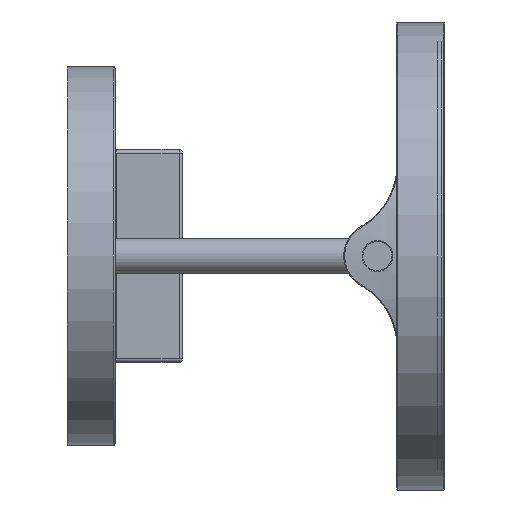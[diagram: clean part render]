
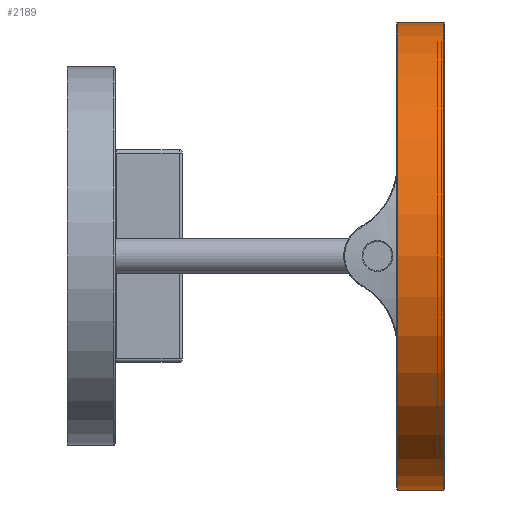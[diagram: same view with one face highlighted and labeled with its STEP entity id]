
A CAD part, left-side view. The second image highlights one B-rep face of the part: STEP entity #2189.
In plain terms, the highlighted cylindrical face has radius 66 mm (diameter 132 mm), a partial arc.
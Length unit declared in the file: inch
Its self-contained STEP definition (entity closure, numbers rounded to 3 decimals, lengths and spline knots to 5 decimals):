
#100 = CARTESIAN_POINT ( 'NONE',  ( 0., 15.60039, 0. ) ) ;
#140 = DIRECTION ( 'NONE',  ( 0., 1., 0. ) ) ;
#184 = LINE ( 'NONE', #3531, #472 ) ;
#261 = VERTEX_POINT ( 'NONE', #3881 ) ;
#422 = CIRCLE ( 'NONE', #3074, 2.59843 ) ;
#472 = VECTOR ( 'NONE', #140, 39.37008 ) ;
#511 = CARTESIAN_POINT ( 'NONE',  ( 0., 15.08858, 2.59843 ) ) ;
#640 = EDGE_LOOP ( 'NONE', ( #3119, #2571, #3980, #3516 ) ) ;
#745 = VERTEX_POINT ( 'NONE', #511 ) ;
#758 = FACE_OUTER_BOUND ( 'NONE', #640, .T. ) ;
#773 = DIRECTION ( 'NONE',  ( 0., 1., 0. ) ) ;
#810 = CYLINDRICAL_SURFACE ( 'NONE', #2059, 2.59843 ) ;
#1250 = CARTESIAN_POINT ( 'NONE',  ( 0., 15.07874, 0. ) ) ;
#1356 = CARTESIAN_POINT ( 'NONE',  ( 0., 15.08858, 0. ) ) ;
#1439 = EDGE_CURVE ( 'NONE', #3704, #3642, #1548, .T. ) ;
#1548 = LINE ( 'NONE', #2986, #2609 ) ;
#1751 = AXIS2_PLACEMENT_3D ( 'NONE', #100, #2898, #3523 ) ;
#1838 = CIRCLE ( 'NONE', #1751, 2.59843 ) ;
#1840 = EDGE_CURVE ( 'NONE', #261, #3642, #1838, .T. ) ;
#2003 = DIRECTION ( 'NONE',  ( 0., 0., 1. ) ) ;
#2059 = AXIS2_PLACEMENT_3D ( 'NONE', #1250, #3672, #3683 ) ;
#2189 = ADVANCED_FACE ( 'NONE', ( #758 ), #810, .T. ) ;
#2248 = CARTESIAN_POINT ( 'NONE',  ( 0., 15.60039, -2.59843 ) ) ;
#2382 = DIRECTION ( 'NONE',  ( 0., 1., 0. ) ) ;
#2571 = ORIENTED_EDGE ( 'NONE', *, *, #3337, .T. ) ;
#2609 = VECTOR ( 'NONE', #2382, 39.37008 ) ;
#2828 = CARTESIAN_POINT ( 'NONE',  ( 0., 15.08858, -2.59843 ) ) ;
#2898 = DIRECTION ( 'NONE',  ( 0., -1., 0. ) ) ;
#2986 = CARTESIAN_POINT ( 'NONE',  ( 0., 15.07874, -2.59843 ) ) ;
#3074 = AXIS2_PLACEMENT_3D ( 'NONE', #1356, #773, #2003 ) ;
#3119 = ORIENTED_EDGE ( 'NONE', *, *, #1439, .F. ) ;
#3337 = EDGE_CURVE ( 'NONE', #3704, #745, #422, .T. ) ;
#3516 = ORIENTED_EDGE ( 'NONE', *, *, #1840, .T. ) ;
#3523 = DIRECTION ( 'NONE',  ( 0., 0., 1. ) ) ;
#3531 = CARTESIAN_POINT ( 'NONE',  ( 0., 15.07874, 2.59843 ) ) ;
#3642 = VERTEX_POINT ( 'NONE', #2248 ) ;
#3672 = DIRECTION ( 'NONE',  ( 0., 1., 0. ) ) ;
#3683 = DIRECTION ( 'NONE',  ( 0., 0., 1. ) ) ;
#3704 = VERTEX_POINT ( 'NONE', #2828 ) ;
#3777 = EDGE_CURVE ( 'NONE', #745, #261, #184, .T. ) ;
#3881 = CARTESIAN_POINT ( 'NONE',  ( 0., 15.60039, 2.59843 ) ) ;
#3980 = ORIENTED_EDGE ( 'NONE', *, *, #3777, .T. ) ;
